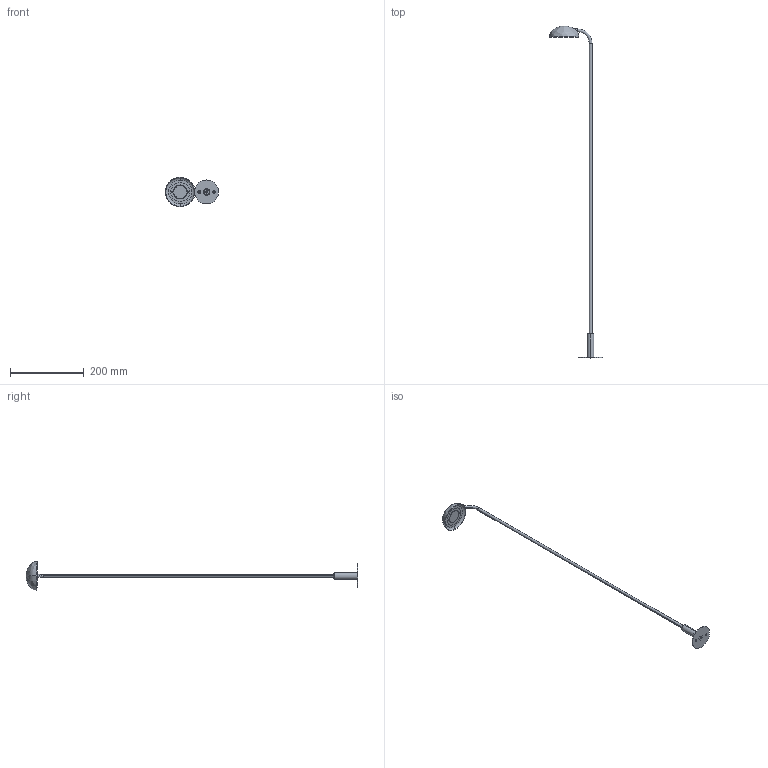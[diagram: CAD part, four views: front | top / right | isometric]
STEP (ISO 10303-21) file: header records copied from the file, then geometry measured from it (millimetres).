
FILE_DESCRIPTION (( 'STEP AP203' ), '1' );
FILE_NAME ('3D per sito_Mirtilla 900mm.STEP', '2026-02-04T16:01:09', ( '' ), ( '' ), 'SwSTEP 2.0', 'SolidWorks 2016', '' );
FILE_SCHEMA (( 'CONFIG_CONTROL_DESIGN' ));
Length unit declared in the file: millimetre
Products named in the file (7): Calotta; supporto cilindrico P-M_; Ghiera; Tubo Mirtilla 900; Schermo mirtilla; 3D per sito_Mirtilla 900mm; basetta P-M_
Assembly tree (6 placements, depth 2):
  3D per sito_Mirtilla 900mm
    basetta P-M_
    supporto cilindrico P-M_
    Calotta
    Ghiera
    Schermo mirtilla
    Tubo Mirtilla 900
Bounding box: 144.1 x 899.69 x 79.99 mm (x, y, z)
Volume: 124379.4 mm3; surface area: 69305.1 mm2
Topology: 6 solids, 6 shells, 119 faces, 266 edges, 166 vertices
Faces by surface type: cylinder 58, plane 27, cone 16, torus 10, bspline 8
Entity records: 7633 total; most frequent: CARTESIAN_POINT 4199, DIRECTION 618, ORIENTED_EDGE 520, AXIS2_PLACEMENT_3D 268, EDGE_CURVE 260, VERTEX_POINT 166, CIRCLE 148, EDGE_LOOP 148
